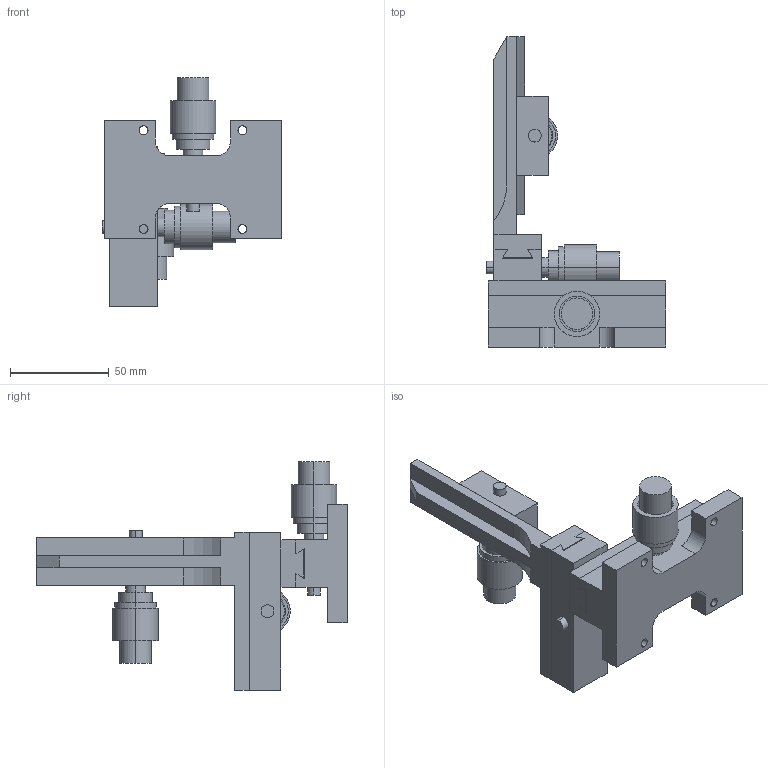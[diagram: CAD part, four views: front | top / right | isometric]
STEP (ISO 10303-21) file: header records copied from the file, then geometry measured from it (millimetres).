
FILE_DESCRIPTION (( 'STEP AP203' ), '1' );
FILE_NAME ('LT-211S-1.STEP', '2008-04-02T01:33:07', ( '' ), ( '' ), 'SwSTEP 2.0', 'SolidWorks 2007', '' );
FILE_SCHEMA (( 'CONFIG_CONTROL_DESIGN' ));
Length unit declared in the file: millimetre
Products named in the file (5): LT-211S-1-2_蹬怮椔; LT-211S-1-3_蹬怮椔; LT-211S-1; LT-211S-1-4_蹬怮椔; LT-211S-1-1_蹬怮椔
Assembly tree (4 placements, depth 2):
  LT-211S-1
    LT-211S-1-1_蹬怮椔
    LT-211S-1-4_蹬怮椔
    LT-211S-1-3_蹬怮椔
    LT-211S-1-2_蹬怮椔
Bounding box: 91 x 157 x 115.5 mm (x, y, z)
Volume: 199603.8 mm3; surface area: 68251.4 mm2
Topology: 4 solids, 14 shells, 259 faces, 586 edges, 388 vertices
Faces by surface type: plane 131, cylinder 124, cone 4
Entity records: 7963 total; most frequent: CARTESIAN_POINT 1358, DIRECTION 1348, ORIENTED_EDGE 1172, EDGE_CURVE 586, AXIS2_PLACEMENT_3D 506, VERTEX_POINT 388, VECTOR 336, LINE 336
